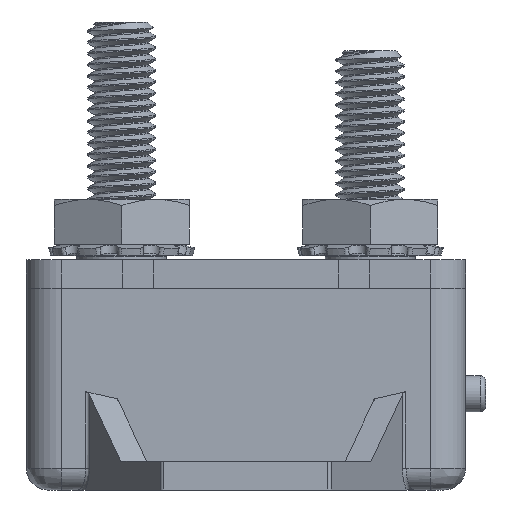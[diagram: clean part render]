
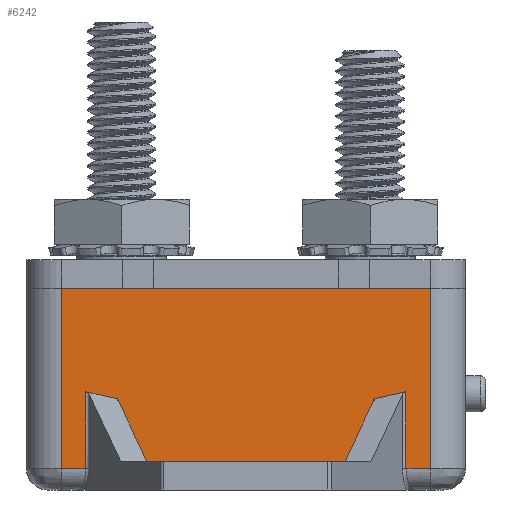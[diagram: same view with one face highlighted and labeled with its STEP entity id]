
A CAD part, front view. The second image highlights one B-rep face of the part: STEP entity #6242.
In plain terms, the highlighted planar face has unit normal (0, -1, 0).
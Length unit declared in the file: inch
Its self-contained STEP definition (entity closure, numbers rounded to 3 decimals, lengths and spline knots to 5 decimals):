
#583=PLANE('',#6705);
#735=FACE_OUTER_BOUND('',#1096,.T.);
#1096=EDGE_LOOP('',(#4313,#4314,#4315,#4316,#4317,#4318,#4319,#4320,#4321,
#4322,#4323,#4324));
#1443=LINE('',#8489,#1913);
#1469=LINE('',#8630,#1939);
#1481=LINE('',#8671,#1951);
#1485=LINE('',#8717,#1955);
#1487=LINE('',#8720,#1957);
#1494=LINE('',#8746,#1964);
#1496=LINE('',#8749,#1966);
#1498=LINE('',#8754,#1968);
#1499=LINE('',#8756,#1969);
#1500=LINE('',#8758,#1970);
#1501=LINE('',#8760,#1971);
#1502=LINE('',#8761,#1972);
#1913=VECTOR('',#7131,0.3937);
#1939=VECTOR('',#7193,0.3937);
#1951=VECTOR('',#7235,0.3937);
#1955=VECTOR('',#7249,0.3937);
#1957=VECTOR('',#7253,0.3937);
#1964=VECTOR('',#7276,0.3937);
#1966=VECTOR('',#7280,0.3937);
#1968=VECTOR('',#7286,0.3937);
#1969=VECTOR('',#7287,0.3937);
#1970=VECTOR('',#7288,0.3937);
#1971=VECTOR('',#7289,0.3937);
#1972=VECTOR('',#7290,0.3937);
#2520=VERTEX_POINT('',#8471);
#2524=VERTEX_POINT('',#8487);
#2554=VERTEX_POINT('',#8627);
#2555=VERTEX_POINT('',#8629);
#2568=VERTEX_POINT('',#8668);
#2569=VERTEX_POINT('',#8670);
#2573=VERTEX_POINT('',#8716);
#2584=VERTEX_POINT('',#8745);
#2585=VERTEX_POINT('',#8753);
#2586=VERTEX_POINT('',#8755);
#2587=VERTEX_POINT('',#8757);
#2588=VERTEX_POINT('',#8759);
#3177=EDGE_CURVE('',#2524,#2520,#1443,.T.);
#3215=EDGE_CURVE('',#2555,#2554,#1469,.T.);
#3236=EDGE_CURVE('',#2568,#2569,#1481,.T.);
#3244=EDGE_CURVE('',#2524,#2573,#1485,.T.);
#3246=EDGE_CURVE('',#2573,#2555,#1487,.T.);
#3259=EDGE_CURVE('',#2584,#2569,#1494,.T.);
#3261=EDGE_CURVE('',#2554,#2584,#1496,.T.);
#3263=EDGE_CURVE('',#2585,#2568,#1498,.T.);
#3264=EDGE_CURVE('',#2586,#2585,#1499,.T.);
#3265=EDGE_CURVE('',#2587,#2586,#1500,.T.);
#3266=EDGE_CURVE('',#2588,#2587,#1501,.T.);
#3267=EDGE_CURVE('',#2520,#2588,#1502,.T.);
#4313=ORIENTED_EDGE('',*,*,#3244,.T.);
#4314=ORIENTED_EDGE('',*,*,#3246,.T.);
#4315=ORIENTED_EDGE('',*,*,#3215,.T.);
#4316=ORIENTED_EDGE('',*,*,#3261,.T.);
#4317=ORIENTED_EDGE('',*,*,#3259,.T.);
#4318=ORIENTED_EDGE('',*,*,#3236,.F.);
#4319=ORIENTED_EDGE('',*,*,#3263,.F.);
#4320=ORIENTED_EDGE('',*,*,#3264,.F.);
#4321=ORIENTED_EDGE('',*,*,#3265,.F.);
#4322=ORIENTED_EDGE('',*,*,#3266,.F.);
#4323=ORIENTED_EDGE('',*,*,#3267,.F.);
#4324=ORIENTED_EDGE('',*,*,#3177,.F.);
#6242=ADVANCED_FACE('',(#735),#583,.T.);
#6705=AXIS2_PLACEMENT_3D('',#8752,#7284,#7285);
#7131=DIRECTION('',(0.,0.,-1.));
#7193=DIRECTION('',(1.,0.,0.));
#7235=DIRECTION('',(0.,0.,1.));
#7249=DIRECTION('',(0.975,0.,-0.221));
#7253=DIRECTION('',(0.,0.,-1.));
#7276=DIRECTION('',(0.975,0.,0.221));
#7280=DIRECTION('',(0.,0.,1.));
#7284=DIRECTION('center_axis',(0.,-1.,0.));
#7285=DIRECTION('ref_axis',(1.,0.,0.));
#7286=DIRECTION('',(-1.,0.,0.));
#7287=DIRECTION('',(0.,0.,-1.));
#7288=DIRECTION('',(1.,0.,0.));
#7289=DIRECTION('',(0.,0.,1.));
#7290=DIRECTION('',(-1.,0.,0.));
#8471=CARTESIAN_POINT('',(0.16538,0.,0.06));
#8487=CARTESIAN_POINT('',(0.16538,0.,0.27301));
#8489=CARTESIAN_POINT('',(0.16538,0.,0.));
#8627=CARTESIAN_POINT('',(0.96708,0.,0.08));
#8629=CARTESIAN_POINT('',(0.25292,0.,0.08));
#8630=CARTESIAN_POINT('',(0.305,0.,0.08));
#8668=CARTESIAN_POINT('',(1.05462,0.,0.06));
#8670=CARTESIAN_POINT('',(1.05462,0.,0.27301));
#8671=CARTESIAN_POINT('',(1.05462,0.,0.));
#8716=CARTESIAN_POINT('',(0.25292,0.,0.25315));
#8717=CARTESIAN_POINT('',(0.08532,0.,0.29116));
#8720=CARTESIAN_POINT('',(0.25292,0.,0.06141));
#8745=CARTESIAN_POINT('',(0.96708,0.,0.25315));
#8746=CARTESIAN_POINT('',(0.55452,0.,0.15959));
#8749=CARTESIAN_POINT('',(0.96708,0.,0.06141));
#8752=CARTESIAN_POINT('Origin',(0.,0.,0.));
#8753=CARTESIAN_POINT('',(1.12157,0.,0.06));
#8754=CARTESIAN_POINT('',(0.305,0.,0.06));
#8755=CARTESIAN_POINT('',(1.12157,0.,0.56));
#8756=CARTESIAN_POINT('',(1.12157,0.,0.));
#8757=CARTESIAN_POINT('',(0.09843,0.,0.56));
#8758=CARTESIAN_POINT('',(0.,0.,0.56));
#8759=CARTESIAN_POINT('',(0.09843,0.,0.06));
#8760=CARTESIAN_POINT('',(0.09843,0.,0.));
#8761=CARTESIAN_POINT('',(0.305,0.,0.06));
